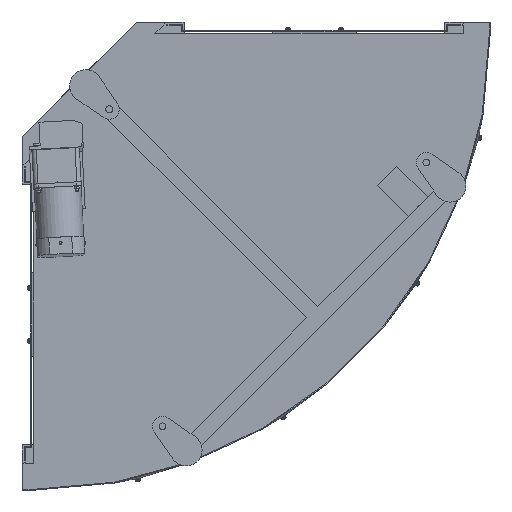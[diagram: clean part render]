
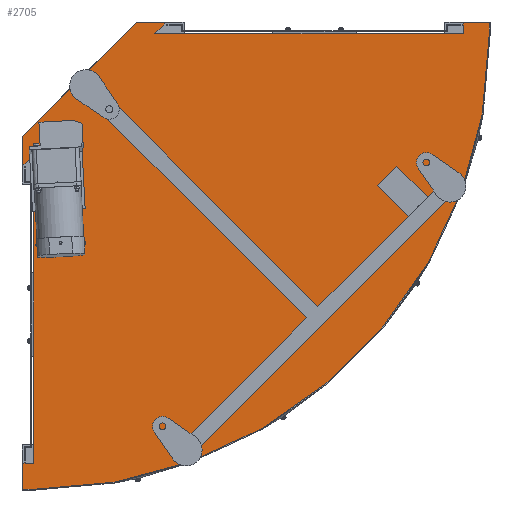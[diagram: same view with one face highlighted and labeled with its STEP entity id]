
A CAD part, front view. The second image highlights one B-rep face of the part: STEP entity #2705.
In plain terms, the highlighted planar face has unit normal (0, -1, 0).
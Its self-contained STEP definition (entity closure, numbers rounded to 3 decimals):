
#2705=ADVANCED_FACE('',(#13169),#13168,.F.);
#13168=PLANE('',#21462);
#13169=FACE_OUTER_BOUND('',#21463,.T.);
#21459=CARTESIAN_POINT('',(-33.4,-157.5,-871.5));
#21460=DIRECTION('',(0.,1.,0.));
#21461=DIRECTION('',(0.,0.,1.));
#21462=AXIS2_PLACEMENT_3D('',#21459,#21460,#21461);
#21463=EDGE_LOOP('',(#28220,#28221,#28222,#28223,#28224,#28225,#28226,#28227,#28228,#28229,#28230,#28231,#28232,#28233));
#28220=ORIENTED_EDGE('',*,*,#31307,.T.);
#28221=ORIENTED_EDGE('',*,*,#31329,.F.);
#28222=ORIENTED_EDGE('',*,*,#31330,.T.);
#28223=ORIENTED_EDGE('',*,*,#31271,.T.);
#28224=ORIENTED_EDGE('',*,*,#31268,.T.);
#28225=ORIENTED_EDGE('',*,*,#31274,.T.);
#28226=ORIENTED_EDGE('',*,*,#31331,.T.);
#28227=ORIENTED_EDGE('',*,*,#31332,.F.);
#28228=ORIENTED_EDGE('',*,*,#31297,.T.);
#28229=ORIENTED_EDGE('',*,*,#31290,.T.);
#28230=ORIENTED_EDGE('',*,*,#31287,.T.);
#28231=ORIENTED_EDGE('',*,*,#31284,.T.);
#28232=ORIENTED_EDGE('',*,*,#31281,.T.);
#28233=ORIENTED_EDGE('',*,*,#31278,.T.);
#31268=EDGE_CURVE('',#46917,#46932,#46939,.T.);
#31271=EDGE_CURVE('',#46946,#46917,#46959,.T.);
#31274=EDGE_CURVE('',#46932,#46972,#46979,.T.);
#31278=EDGE_CURVE('',#46985,#47000,#47007,.T.);
#31281=EDGE_CURVE('',#47013,#46985,#47027,.T.);
#31284=EDGE_CURVE('',#47033,#47013,#47047,.T.);
#31287=EDGE_CURVE('',#47053,#47033,#47067,.T.);
#31290=EDGE_CURVE('',#47073,#47053,#47087,.T.);
#31297=EDGE_CURVE('',#47133,#47073,#47134,.T.);
#31307=EDGE_CURVE('',#47000,#47195,#47202,.T.);
#31329=EDGE_CURVE('',#47345,#47195,#47346,.T.);
#31330=EDGE_CURVE('',#47345,#46946,#47352,.T.);
#31331=EDGE_CURVE('',#46972,#47358,#47359,.T.);
#31332=EDGE_CURVE('',#47133,#47358,#47365,.T.);
#46917=VERTEX_POINT('',#59632);
#46932=VERTEX_POINT('',#59641);
#46939=LINE('',#59645,#59646);
#46946=VERTEX_POINT('',#59649);
#46959=LINE('',#59656,#59657);
#46972=VERTEX_POINT('',#59663);
#46979=LINE('',#59667,#59668);
#46985=VERTEX_POINT('',#59670);
#47000=VERTEX_POINT('',#59679);
#47007=LINE('',#59683,#59684);
#47013=VERTEX_POINT('',#59686);
#47027=LINE('',#59694,#59695);
#47033=VERTEX_POINT('',#59697);
#47047=CIRCLE('',#59709,861.5);
#47053=VERTEX_POINT('',#59710);
#47067=LINE('',#59718,#59719);
#47073=VERTEX_POINT('',#59721);
#47087=LINE('',#59729,#59730);
#47133=VERTEX_POINT('',#59754);
#47134=LINE('',#59755,#59756);
#47195=VERTEX_POINT('',#59791);
#47202=LINE('',#59795,#59796);
#47345=VERTEX_POINT('',#59874);
#47346=LINE('',#59875,#59876);
#47352=LINE('',#59878,#59879);
#47358=VERTEX_POINT('',#59881);
#47359=LINE('',#59882,#59883);
#47365=LINE('',#59885,#59886);
#59632=CARTESIAN_POINT('',(193.163,-157.5,23.4));
#59641=CARTESIAN_POINT('',(-23.4,-157.5,-193.163));
#59645=CARTESIAN_POINT('',(193.163,-157.5,23.4));
#59646=VECTOR('',#59647,306.266);
#59647=DIRECTION('',(-0.707,0.,-0.707));
#59649=CARTESIAN_POINT('',(247.5,-157.5,23.4));
#59656=CARTESIAN_POINT('',(247.5,-157.5,23.4));
#59657=VECTOR('',#59658,54.337);
#59658=DIRECTION('',(-1.,0.,0.));
#59663=CARTESIAN_POINT('',(-23.4,-157.5,-247.5));
#59667=CARTESIAN_POINT('',(-23.4,-157.5,-193.163));
#59668=VECTOR('',#59669,54.337);
#59669=DIRECTION('',(0.,0.,-1.));
#59670=CARTESIAN_POINT('',(861.5,-157.5,23.4));
#59679=CARTESIAN_POINT('',(812.5,-157.5,23.4));
#59683=CARTESIAN_POINT('',(861.5,-157.5,23.4));
#59684=VECTOR('',#59685,49.);
#59685=DIRECTION('',(-1.,0.,0.));
#59686=CARTESIAN_POINT('',(861.5,-157.5,0.));
#59694=CARTESIAN_POINT('',(861.5,-157.5,0.));
#59695=VECTOR('',#59696,23.4);
#59696=DIRECTION('',(0.,0.,1.));
#59697=CARTESIAN_POINT('',(0.,-157.5,-861.5));
#59706=CARTESIAN_POINT('',(0.,-157.5,0.));
#59707=DIRECTION('',(0.,-1.,0.));
#59708=DIRECTION('',(0.,0.,-1.));
#59709=AXIS2_PLACEMENT_3D('',#59706,#59707,#59708);
#59710=CARTESIAN_POINT('',(-23.4,-157.5,-861.5));
#59718=CARTESIAN_POINT('',(-23.4,-157.5,-861.5));
#59719=VECTOR('',#59720,23.4);
#59720=DIRECTION('',(1.,0.,0.));
#59721=CARTESIAN_POINT('',(-23.4,-157.5,-812.5));
#59729=CARTESIAN_POINT('',(-23.4,-157.5,-812.5));
#59730=VECTOR('',#59731,49.);
#59731=DIRECTION('',(0.,0.,-1.));
#59754=CARTESIAN_POINT('',(-2.727,-157.5,-812.5));
#59755=CARTESIAN_POINT('',(-2.727,-157.5,-812.5));
#59756=VECTOR('',#59757,20.673);
#59757=DIRECTION('',(-1.,0.,0.));
#59791=CARTESIAN_POINT('',(812.5,-157.5,2.727));
#59795=CARTESIAN_POINT('',(812.5,-157.5,23.4));
#59796=VECTOR('',#59797,20.673);
#59797=DIRECTION('',(0.,0.,-1.));
#59874=CARTESIAN_POINT('',(226.811,-157.5,2.711));
#59875=CARTESIAN_POINT('',(226.811,-157.5,2.711));
#59876=VECTOR('',#59877,585.689);
#59877=DIRECTION('',(1.,0.,0.));
#59878=CARTESIAN_POINT('',(226.811,-157.5,2.711));
#59879=VECTOR('',#59880,29.258);
#59880=DIRECTION('',(0.707,0.,0.707));
#59881=CARTESIAN_POINT('',(-2.711,-157.5,-226.811));
#59882=CARTESIAN_POINT('',(-23.4,-157.5,-247.5));
#59883=VECTOR('',#59884,29.258);
#59884=DIRECTION('',(0.707,0.,0.707));
#59885=CARTESIAN_POINT('',(-2.727,-157.5,-812.5));
#59886=VECTOR('',#59887,585.689);
#59887=DIRECTION('',(0.,0.,1.));
